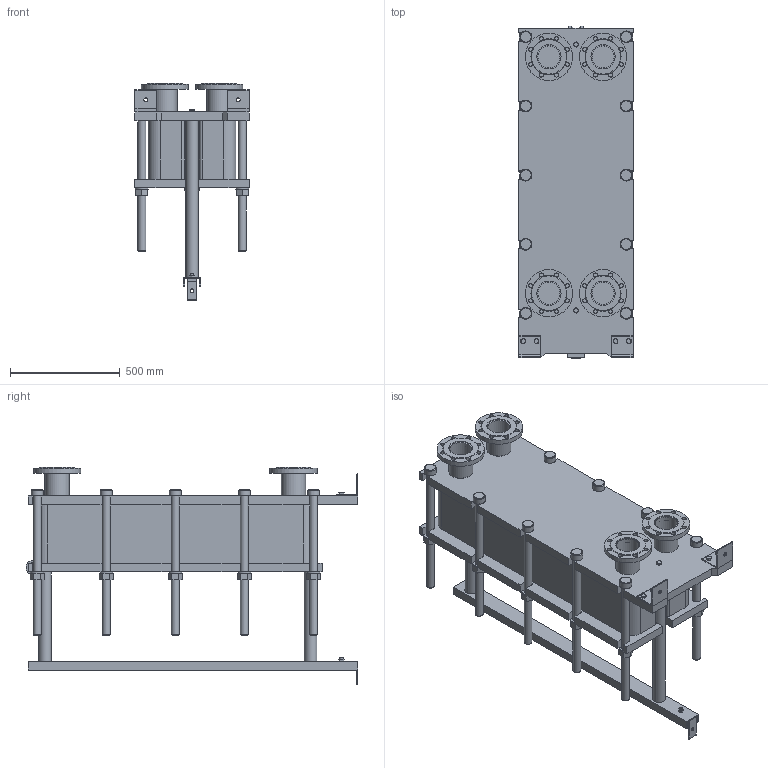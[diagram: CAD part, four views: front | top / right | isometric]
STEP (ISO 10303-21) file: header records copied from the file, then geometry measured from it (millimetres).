
FILE_DESCRIPTION(/* description */ (''),/* implementation_level */ '2;1');
FILE_NAME(/* name */ 'C:\Users\zhuro\Desktop\ENCO\TO\ЭН-04\ЭН-0,5-04-77-1.stp',/* time_stamp */ '2022-06-06T10:51:25+03:00',/* author */ ('zhuro'),/* organization */ (''),/* preprocessor_version */ 'ST-DEVELOPER v18.1',/* originating_system */ 'Autodesk Inventor 2022',/* authorisation */ '');
FILE_SCHEMA (('AUTOMOTIVE_DESIGN { 1 0 10303 214 3 1 1 }'));
Length unit declared in the file: millimetre
Products named in the file (1): ЭН-0,5-04-77-1
Bounding box: 520 x 1510 x 988.5 mm (x, y, z)
Volume: 202727921.7 mm3; surface area: 7849489.8 mm2
Topology: 45 solids, 45 shells, 668 faces, 1611 edges, 1048 vertices
Faces by surface type: plane 457, cylinder 166, cone 39, torus 6
Full cylindrical faces by diameter (mm): 8 x4, 10 x2, 16 x8, 18 x35, 36 x25, 40 x2, 42 x1, 45 x4, 54 x10, 57 x2, 60 x10, 68 x2, 100 x4, 110 x8, 215 x4
Entity records: 23607 total; most frequent: CARTESIAN_POINT 7348, DIRECTION 3371, ORIENTED_EDGE 3142, EDGE_CURVE 1571, AXIS2_PLACEMENT_3D 1199, VERTEX_POINT 1044, LINE 973, VECTOR 973
